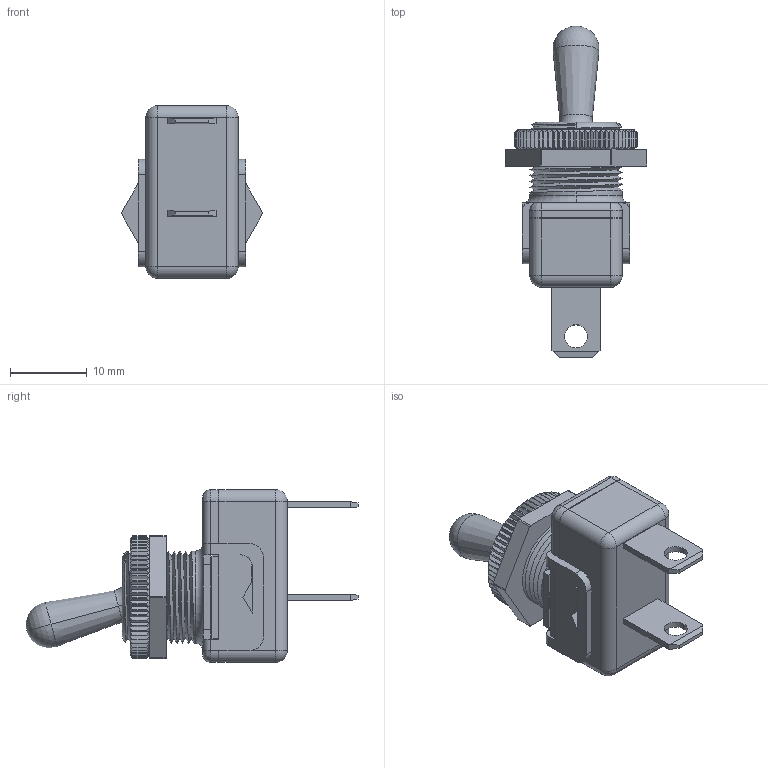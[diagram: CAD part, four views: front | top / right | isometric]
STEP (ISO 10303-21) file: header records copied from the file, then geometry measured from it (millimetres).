
FILE_DESCRIPTION((''),'2;1');
FILE_NAME('1011C_SW0001','2009-10-06T',('jlgachon'),(''),'PRO/ENGINEER BY PARAMETRIC TECHNOLOGY CORPORATION, 2008400','PRO/ENGINEER BY PARAMETRIC TECHNOLOGY CORPORATION, 2008400','');
FILE_SCHEMA(('CONFIG_CONTROL_DESIGN'));
Length unit declared in the file: millimetre
Products named in the file (1): 1011C_SW0001
Bounding box: 18.41 x 43.2 x 22.5 mm (x, y, z)
Volume: 3215.2 mm3; surface area: 5540.7 mm2
Topology: 1 solids, 1 shells, 711 faces, 1833 edges, 1097 vertices
Faces by surface type: plane 346, cylinder 186, cone 145, torus 14, bspline 10, sphere 10
Entity records: 27305 total; most frequent: CARTESIAN_POINT 10544, ORIENTED_EDGE 3658, DIRECTION 3317, EDGE_CURVE 1829, AXIS2_PLACEMENT_3D 1215, VERTEX_POINT 1098, VECTOR 887, LINE 887
